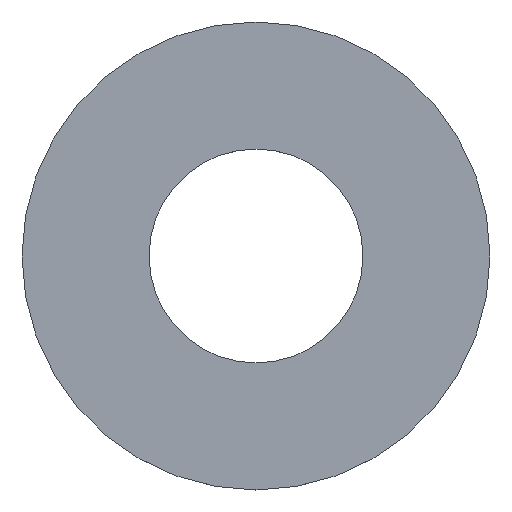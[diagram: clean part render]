
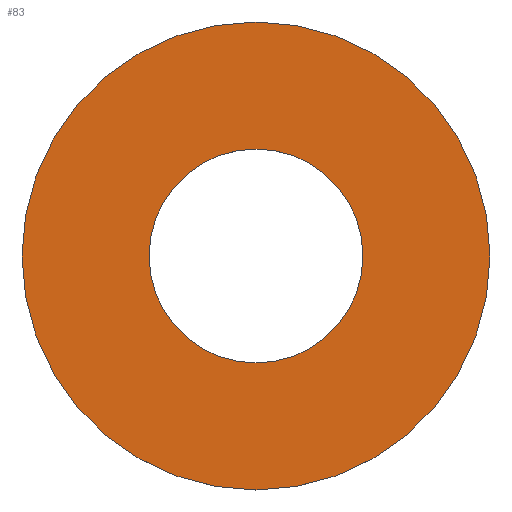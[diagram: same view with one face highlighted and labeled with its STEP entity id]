
A CAD part, top view. The second image highlights one B-rep face of the part: STEP entity #83.
In plain terms, the highlighted planar face has unit normal (0, 0, 1).
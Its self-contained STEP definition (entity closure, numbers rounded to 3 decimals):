
#33=FACE_BOUND('',#44,.T.);
#35=PLANE('',#114);
#39=FACE_OUTER_BOUND('',#43,.T.);
#43=EDGE_LOOP('',(#75));
#44=EDGE_LOOP('',(#76));
#51=CIRCLE('',#109,3.2);
#53=CIRCLE('',#112,7.);
#57=VERTEX_POINT('',#156);
#59=VERTEX_POINT('',#162);
#61=EDGE_CURVE('',#57,#57,#51,.T.);
#64=EDGE_CURVE('',#59,#59,#53,.T.);
#75=ORIENTED_EDGE('',*,*,#64,.T.);
#76=ORIENTED_EDGE('',*,*,#61,.T.);
#83=ADVANCED_FACE('',(#39,#33),#35,.T.);
#109=AXIS2_PLACEMENT_3D('',#157,#126,#127);
#112=AXIS2_PLACEMENT_3D('',#163,#133,#134);
#114=AXIS2_PLACEMENT_3D('',#167,#138,#139);
#126=DIRECTION('center_axis',(0.,0.,-1.));
#127=DIRECTION('ref_axis',(-1.,0.,0.));
#133=DIRECTION('center_axis',(0.,0.,1.));
#134=DIRECTION('ref_axis',(1.,0.,0.));
#138=DIRECTION('center_axis',(0.,0.,1.));
#139=DIRECTION('ref_axis',(1.,0.,0.));
#156=CARTESIAN_POINT('',(3.2,0.,0.25));
#157=CARTESIAN_POINT('Origin',(0.,0.,0.25));
#162=CARTESIAN_POINT('',(-7.,0.,0.25));
#163=CARTESIAN_POINT('Origin',(0.,0.,0.25));
#167=CARTESIAN_POINT('Origin',(0.,0.,0.25));
